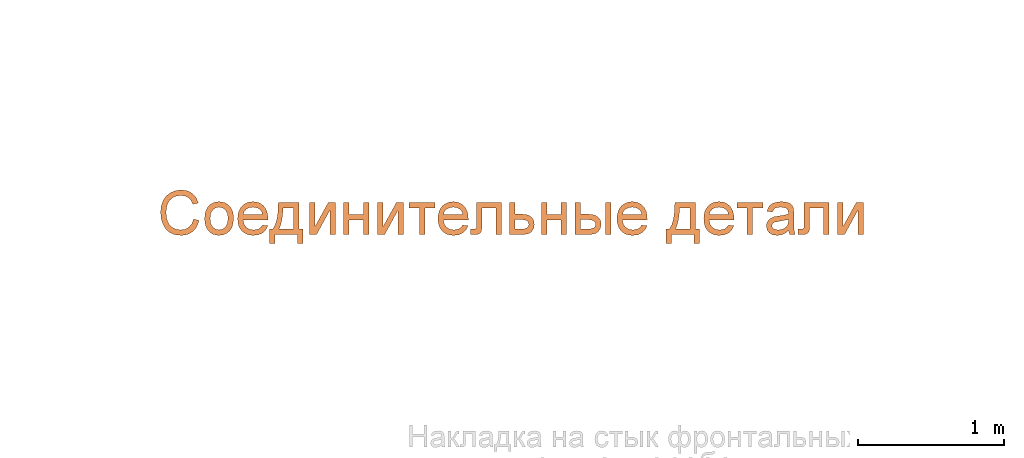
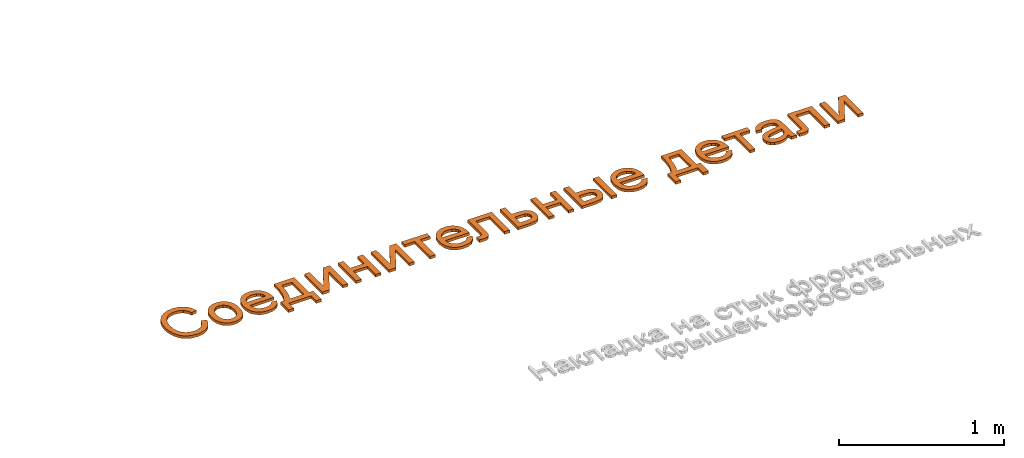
# One storey, part 27 of 87: 1 proxy.
"""IFC2X3 building model written with IfcOpenShell, lengths in millimetres."""

from ifc_helpers import new_model, entity, si_unit, converted_unit, derived_unit, direction, frame, frame_2d, origin, place, context, subcontext, project, spatial, polyline, rectangle, outline, extrude, element, save


model = new_model("IFC2X3")

# Units and contexts
model_context = context("Model", 3, precision=0.01, world=origin(), true_north=direction((6.12303176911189e-17, 1.0)))
body_context = subcontext(model_context, "Body", "Model", "MODEL_VIEW")
ifc_project = project(units=[si_unit("LENGTHUNIT", "METRE", prefix="MILLI"), si_unit("AREAUNIT", "SQUARE_METRE"), si_unit("VOLUMEUNIT", "CUBIC_METRE"), converted_unit("PLANEANGLEUNIT", "DEGREE", entity("IfcRatioMeasure", 0.0174532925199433), si_unit("PLANEANGLEUNIT", "RADIAN"), dimensions=[0, 0, 0, 0, 0, 0, 0]), si_unit("MASSUNIT", "GRAM", prefix="KILO"), derived_unit("MASSDENSITYUNIT", [(si_unit("MASSUNIT", "GRAM", prefix="KILO"), 1), (si_unit("LENGTHUNIT", "METRE"), -3)]), si_unit("TIMEUNIT", "SECOND"), si_unit("FREQUENCYUNIT", "HERTZ"), si_unit("THERMODYNAMICTEMPERATUREUNIT", "DEGREE_CELSIUS"), derived_unit("THERMALTRANSMITTANCEUNIT", [(si_unit("MASSUNIT", "GRAM", prefix="KILO"), 1), (si_unit("THERMODYNAMICTEMPERATUREUNIT", "KELVIN"), -1), (si_unit("TIMEUNIT", "SECOND"), -3)]), derived_unit("VOLUMETRICFLOWRATEUNIT", [(si_unit("LENGTHUNIT", "METRE"), 3), (si_unit("TIMEUNIT", "SECOND"), -1)]), si_unit("ELECTRICCURRENTUNIT", "AMPERE"), si_unit("ELECTRICVOLTAGEUNIT", "VOLT"), si_unit("POWERUNIT", "WATT"), si_unit("FORCEUNIT", "NEWTON", prefix="KILO"), si_unit("ILLUMINANCEUNIT", "LUX"), si_unit("LUMINOUSFLUXUNIT", "LUMEN"), si_unit("LUMINOUSINTENSITYUNIT", "CANDELA"), derived_unit("USERDEFINED", [(si_unit("MASSUNIT", "GRAM", prefix="KILO"), -1), (si_unit("LENGTHUNIT", "METRE"), -2), (si_unit("TIMEUNIT", "SECOND"), 3), (si_unit("LUMINOUSFLUXUNIT", "LUMEN"), 1)]), derived_unit("LINEARVELOCITYUNIT", [(si_unit("LENGTHUNIT", "METRE"), 1), (si_unit("TIMEUNIT", "SECOND"), -1)]), si_unit("PRESSUREUNIT", "PASCAL"), derived_unit("USERDEFINED", [(si_unit("LENGTHUNIT", "METRE"), -2), (si_unit("MASSUNIT", "GRAM", prefix="KILO"), 1), (si_unit("TIMEUNIT", "SECOND"), -2)])], contexts=[model_context])

# Site, building, storey
site_placement = place(None, origin())
site = spatial("IfcSite", under=ifc_project, at=site_placement, Name="Default", CompositionType="ELEMENT")
building_placement = place(site_placement, origin())
building = spatial("IfcBuilding", under=site, at=building_placement, Name="Наименование здания", CompositionType="ELEMENT")
storey_placement = place(building_placement, origin())
storey = spatial("IfcBuildingStorey", under=building, at=storey_placement, Name="Этаж 01", CompositionType="ELEMENT", Elevation=0.0)

# Proxy
proxy_placement = place(storey_placement, origin())
element("IfcBuildingElementProxy", 1, at=proxy_placement, inside=storey, Name="Текст модели:300 мм Arial", ObjectType="Текст модели:300 мм Arial", context=body_context, shape_type="SweptSolid", body=[
    extrude(outline(polyline([(4.8581661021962, -100.676583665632), (0.632914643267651, -139.349375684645), (25.1827939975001, -140.653854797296), (47.8407316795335, -138.599132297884), (68.6067276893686, -133.185208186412), (87.4807820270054, -124.412082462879), (104.198015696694, -112.538547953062), (118.493549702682, -97.8233974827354), (130.367384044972, -80.266631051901), (139.819518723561, -59.8682486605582), (150.63009438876, -17.2433335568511), (149.004776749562, 20.4637796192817), (135.740600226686, 53.9056734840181), (111.634599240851, 83.7349306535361), (79.42298974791, 108.554304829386), (41.8419877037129, 126.96654971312), (-0.842994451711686, 138.320868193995), (-41.0705374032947, 139.210702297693), (-77.4665671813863, 129.86422637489), (-108.657009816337, 110.509614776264), (-133.587943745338, 83.0001436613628), (-151.205447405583, 49.1890891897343), (-160.310718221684, 8.47618552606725), (-159.798338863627, -10.925103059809), (-155.909282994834, -29.6896161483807), (-148.803120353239, -47.4719773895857), (-138.639420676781, -63.926810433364), (-109.139410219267, -92.8538919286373), (-87.4312743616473, -60.7845268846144), (-108.516170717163, -38.8602492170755), (-119.840866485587, -15.5102405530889), (-121.964048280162, 9.71246899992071), (-115.444402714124, 37.2548493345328), (-100.243438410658, 66.0995768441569), (-79.546384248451, 86.6943764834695), (-54.7647926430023, 98.8940483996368), (-27.3102160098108, 102.553392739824), (1.0284506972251, 99.5474992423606), (28.4623125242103, 91.7514576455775), (60.014859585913, 76.7959561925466), (85.1539446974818, 58.1871732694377), (102.690355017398, 36.03019126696), (111.434877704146, 10.4300925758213), (112.226526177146, -16.6000242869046), (105.90431385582, -43.0470608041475), (90.4228069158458, -70.8125336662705), (68.0521970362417, -90.3721374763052), (39.3461086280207, -100.676583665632), (4.8581661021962, -100.676583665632)])), frame((6548.51639485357, 6045.10355626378, 0.0), z_axis=(0.0, 0.0, -1.0), x_axis=(-0.353343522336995, -0.93549364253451, 0.0)), (0.0, 0.0, -1.0), 20.0),
    extrude(outline(polyline([(-0.229377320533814, -95.3874471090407), (26.1479590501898, -95.3874471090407), (49.4793057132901, -91.7658632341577), (69.7646626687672, -84.5226954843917), (87.00402991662, -73.6579438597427), (100.935147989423, -59.804343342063), (111.295757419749, -43.5946289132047), (118.085858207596, -25.028800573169), (121.305450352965, -4.10685832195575), (119.659258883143, 22.6445950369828), (111.137222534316, 47.6856680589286), (96.2709912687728, 69.2676051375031), (75.5922150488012, 85.6416506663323), (47.2756049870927, 96.6589942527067), (9.49587219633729, 102.170825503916), (-15.4440446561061, 102.059101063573), (-37.7671193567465, 98.3167797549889), (-57.4733519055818, 90.9438615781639), (-74.5627423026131, 79.9403465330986), (-88.5474044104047, 66.007273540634), (-98.9394520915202, 49.8456815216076), (-105.738885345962, 31.4555704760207), (-108.945704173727, 10.8369404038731), (-108.636916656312, -8.04907106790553), (-105.175445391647, -25.6466417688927), (-98.5612903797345, -41.9557716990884), (-88.7944516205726, -56.9764608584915), (-72.9824052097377, -72.2927248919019), (-52.9508773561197, -83.7999772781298), (-28.6998680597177, -91.4982180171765), (-0.229377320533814, -95.3874471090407)]), holes=[polyline([(2.13700462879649, -57.7906566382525), (-31.5841834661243, -51.2335049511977), (-54.9205080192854, -36.6132063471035), (-68.1007471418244, -16.0346845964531), (-71.3536789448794, 8.39713653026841), (-64.9677103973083, 31.9545293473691), (-49.1835960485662, 50.6439854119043), (-24.4231993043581, 62.2256502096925), (8.89161642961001, 64.4596692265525), (43.374556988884, 57.8530781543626), (67.0871689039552, 43.2083576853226), (80.4074567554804, 22.6576120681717), (83.7134251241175, -1.66705444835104), (77.3113738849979, -25.4722462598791), (61.5266638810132, -44.1708800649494), (36.4412293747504, -55.6485016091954), (2.13700462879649, -57.7906566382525)])]), frame((6811.52636546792, 6014.46597965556, 0.0), z_axis=(0.0, 0.0, 1.0), x_axis=(0.06476590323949, -0.997900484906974, 0.0)), (0.0, 0.0, 1.0), 20.0),
    extrude(outline(polyline([(-9.2980261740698, -75.8566611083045), (-26.8306332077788, -108.704820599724), (3.56775144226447, -113.95540701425), (32.8230438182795, -108.674298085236), (59.9984289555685, -92.7832033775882), (84.1570918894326, -66.2038324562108), (96.1620849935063, -46.0614577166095), (103.65130823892, -25.838752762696), (106.624761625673, -5.53571759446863), (105.082445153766, 14.847647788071), (99.0119671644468, 34.6660777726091), (88.4009359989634, 53.2743067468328), (73.2493516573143, 70.6723347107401), (53.5572141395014, 86.8601616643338), (31.0596964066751, 100.584097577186), (8.99213631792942, 109.526058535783), (-12.6454661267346, 113.686044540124), (-33.8531109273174, 113.064055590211), (-53.9060969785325, 108.053690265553), (-72.0797231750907, 99.0485471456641), (-88.3739895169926, 86.0486262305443), (-102.788896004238, 69.0539275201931), (-113.658425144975, 50.4204956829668), (-120.210650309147, 31.2442368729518), (-122.445571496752, 11.5251510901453), (-120.363188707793, -8.73676166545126), (-113.816971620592, -28.7151265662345), (-102.660389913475, -47.5835687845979), (-86.8934435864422, -65.342088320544), (-66.5161326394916, -81.9906851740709), (-58.1074951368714, -87.6861196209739), (39.8593178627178, 50.389057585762), (59.0835694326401, 28.753814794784), (67.2251442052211, 4.40423779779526), (64.9709656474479, -20.8014716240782), (53.0079572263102, -45.0051116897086), (39.8008874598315, -60.2180076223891), (25.2142222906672, -70.572817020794), (8.94792873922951, -75.8566611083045), (-9.2980261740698, -75.8566611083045)]), holes=[polyline([(9.13594075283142, 72.1878443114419), (-67.1598127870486, -35.3439755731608), (-80.4432259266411, -19.6717769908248), (-86.2748434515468, -3.28747293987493), (-84.3671677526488, 22.2881318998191), (-71.9803673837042, 47.3751539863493), (-54.4135940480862, 66.046616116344), (-33.6450905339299, 77.0560555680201), (-11.7651484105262, 79.4282168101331), (9.13594075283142, 72.1878443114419)])]), frame((7044.18288641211, 6000.0946459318, 0.0), z_axis=(0.0, 0.0, -1.0), x_axis=(-0.578660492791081, -0.815568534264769, 0.0)), (0.0, 0.0, -1.0), 20.0),
    extrude(outline(polyline([(-174.229575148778, 48.086932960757), (-178.217845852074, -93.1234431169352), (5.35564304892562, -98.3081950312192), (4.55798890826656, -126.550270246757), (103.405252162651, -129.342059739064), (104.468791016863, -91.6859594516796), (43.277628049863, -89.957708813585), (47.6647258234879, 65.3737048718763), (108.855888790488, 63.6454542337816), (109.9194276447, 101.301554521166), (11.0721643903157, 104.093344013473), (10.4074526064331, 80.5582813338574), (-20.9931116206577, 64.3226071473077), (-62.2328043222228, 53.4988243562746), (-113.311625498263, 48.086932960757), (-174.229575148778, 48.086932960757)]), holes=[polyline([(-137.504071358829, 14.0743063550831), (-91.3120078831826, 15.8611233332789), (-51.4621462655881, 20.4768726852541), (-17.9544865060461, 27.921554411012), (9.21097139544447, 38.1951685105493), (6.41918190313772, -60.6520947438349), (-139.498206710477, -56.530881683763), (-137.504071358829, 14.0743063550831)])]), frame((7263.32438972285, 5943.65819920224, 0.0), z_axis=(0.0, 0.0, -1.0), x_axis=(-0.0282322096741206, -0.99960139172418, 0.0)), (0.0, 0.0, -1.0), 20.0),
    extrude(outline(polyline([(-110.761911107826, -89.5277623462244), (110.555897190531, -89.5277623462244), (110.555897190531, -40.2315749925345), (-57.1982926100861, 51.7389238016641), (110.555897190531, 51.7389238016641), (110.555897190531, 89.4100401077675), (-110.761911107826, 89.4100401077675), (-110.761911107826, 40.70246394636), (58.0223482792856, -51.856646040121), (-110.761911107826, -51.856646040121), (-110.761911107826, -89.5277623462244)])), frame((7521.60330207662, 6008.41401426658, 0.0), z_axis=(0.0, 0.0, 1.0), x_axis=(0.0, -1.0, 0.0)), (0.0, 0.0, 1.0), 20.0),
    extrude(outline(polyline([(-108.304459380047, -87.1144564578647), (113.013348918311, -87.1144564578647), (113.013348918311, -49.4433401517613), (14.1266686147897, -49.4433401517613), (14.1266686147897, 49.4433401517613), (113.013348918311, 49.4433401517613), (113.013348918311, 87.1144564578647), (-108.304459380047, 87.1144564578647), (-108.304459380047, 49.4433401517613), (-23.5444476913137, 49.4433401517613), (-23.5444476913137, -49.4433401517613), (-108.304459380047, -49.4433401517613), (-108.304459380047, -87.1144564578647)])), frame((7754.6344731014, 6010.87146599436, 0.0), z_axis=(0.0, 0.0, 1.0), x_axis=(0.0, -1.0, 0.0)), (0.0, 0.0, 1.0), 20.0),
    extrude(outline(polyline([(-110.761911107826, -89.5277623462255), (110.555897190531, -89.5277623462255), (110.555897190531, -40.2315749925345), (-57.1982926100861, 51.738923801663), (110.555897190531, 51.738923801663), (110.555897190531, 89.4100401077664), (-110.761911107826, 89.4100401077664), (-110.761911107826, 40.70246394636), (58.0223482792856, -51.8566460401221), (-110.761911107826, -51.8566460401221), (-110.761911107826, -89.5277623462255)])), frame((7987.78336636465, 6008.41401426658, 0.0), z_axis=(0.0, 0.0, 1.0), x_axis=(0.0, -1.0, 0.0)), (0.0, 0.0, 1.0), 20.0),
    extrude(outline(polyline([(-74.1650102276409, -89.4689012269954), (-36.4938939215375, -89.4689012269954), (-36.4938939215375, -18.8355581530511), (147.152798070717, -18.8355581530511), (147.152798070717, 18.8355581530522), (-36.4938939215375, 18.8355581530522), (-36.4938939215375, 89.4689012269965), (-74.1650102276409, 89.4689012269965), (-74.1650102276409, -89.4689012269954)])), frame((8204.33342400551, 6045.01091514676, 0.0), z_axis=(0.0, 0.0, 1.0), x_axis=(0.0, -1.0, 0.0)), (0.0, 0.0, 1.0), 20.0),
    extrude(outline(polyline([(-9.29802617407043, -75.8566611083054), (-26.8306332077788, -108.704820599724), (3.56775144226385, -113.955407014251), (32.8230438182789, -108.674298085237), (59.9984289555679, -92.7832033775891), (84.157091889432, -66.2038324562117), (96.1620849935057, -46.0614577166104), (103.65130823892, -25.838752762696), (106.624761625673, -5.53571759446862), (105.082445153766, 14.847647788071), (99.0119671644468, 34.6660777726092), (88.4009359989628, 53.2743067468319), (73.2493516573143, 70.6723347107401), (53.5572141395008, 86.8601616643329), (31.0596964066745, 100.584097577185), (8.9921363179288, 109.526058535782), (-12.6454661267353, 113.686044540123), (-33.853110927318, 113.06405559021), (-53.9060969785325, 108.053690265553), (-72.0797231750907, 99.0485471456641), (-88.3739895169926, 86.0486262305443), (-102.788896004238, 69.0539275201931), (-113.658425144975, 50.4204956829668), (-120.210650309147, 31.2442368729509), (-122.445571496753, 11.5251510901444), (-120.363188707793, -8.73676166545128), (-113.816971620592, -28.7151265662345), (-102.660389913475, -47.5835687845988), (-86.8934435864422, -65.3420883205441), (-66.5161326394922, -81.9906851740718), (-58.107495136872, -87.6861196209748), (39.8593178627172, 50.3890575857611), (59.0835694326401, 28.753814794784), (67.2251442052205, 4.40423779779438), (64.9709656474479, -20.8014716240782), (53.0079572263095, -45.0051116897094), (39.8008874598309, -60.21800762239), (25.2142222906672, -70.5728170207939), (8.94792873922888, -75.8566611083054), (-9.29802617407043, -75.8566611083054)]), holes=[polyline([(9.13594075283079, 72.187844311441), (-67.1598127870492, -35.3439755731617), (-80.4432259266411, -19.6717769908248), (-86.2748434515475, -3.28747293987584), (-84.3671677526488, 22.288131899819), (-71.9803673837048, 47.3751539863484), (-54.4135940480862, 66.0466161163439), (-33.6450905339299, 77.0560555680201), (-11.7651484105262, 79.4282168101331), (9.13594075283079, 72.187844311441)])]), frame((8414.46974204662, 6000.0946459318, 0.0), z_axis=(0.0, 0.0, -1.0), x_axis=(-0.578660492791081, -0.815568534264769, 0.0)), (0.0, 0.0, -1.0), 20.0),
    extrude(outline(polyline([(-155.101092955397, 35.5430211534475), (-155.101092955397, -133.977002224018), (65.9959861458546, -133.977002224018), (65.9959861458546, -96.3058859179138), (-117.429976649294, -96.3058859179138), (-117.429976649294, -2.12809515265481), (-11.8478440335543, -2.12809515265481), (36.8597321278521, 0.410290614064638), (47.8869949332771, 5.16516540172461), (57.4243356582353, 14.3530182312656), (64.0186204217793, 28.2957458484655), (66.2167153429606, 47.3152449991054), (64.3037289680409, 77.9230269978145), (28.5455990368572, 77.9230269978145), (28.5455990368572, 61.0740316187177), (26.2279424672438, 44.0410952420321), (18.8703025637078, 37.2352783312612), (-13.9815596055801, 35.5430211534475), (-155.101092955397, 35.5430211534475)])), frame((8611.87871868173, 5964.07483241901, 0.0), z_axis=(0.0, 0.0, -1.0), x_axis=(0.0, -1.0, 0.0)), (0.0, 0.0, -1.0), 20.0),
    extrude(outline(polyline([(-128.949105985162, -106.932805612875), (92.3687023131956, -106.932805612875), (92.3687023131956, -19.4504671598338), (87.2091573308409, 17.6596291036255), (80.7597261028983, 31.8207866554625), (71.7305223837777, 43.0526838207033), (48.9862180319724, 57.7035842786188), (22.0296648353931, 62.5872177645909), (-7.57563872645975, 56.8482586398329), (-19.6950512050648, 49.6745597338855), (-30.0256374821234, 39.6313812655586), (-38.2822890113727, 26.9302553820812), (-44.1798972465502, 11.7827142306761), (-48.8979838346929, -25.85161387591), (-48.8979838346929, -69.2616893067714), (-128.949105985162, -69.2616893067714), (-128.949105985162, -106.932805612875)]), holes=[polyline([(54.6975860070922, -69.2616893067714), (-11.2268675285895, -69.2616893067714), (-11.2268675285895, -29.6040102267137), (-8.688481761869, -1.2678995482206), (-1.07332446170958, 14.8729229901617), (9.79758849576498, 22.4053068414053), (22.1032412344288, 24.9161014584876), (36.6621711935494, 21.5223900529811), (46.7881231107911, 11.341255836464), (52.7202202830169, -6.80452357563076), (54.6975860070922, -34.0921705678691), (54.6975860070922, -69.2616893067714)])]), frame((8909.29520097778, 5990.22681938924, 0.0), z_axis=(0.0, 0.0, 1.0), x_axis=(0.0, -1.0, 0.0)), (0.0, 0.0, 1.0), 20.0),
    extrude(outline(polyline([(-108.304459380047, -87.1144564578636), (113.013348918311, -87.1144564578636), (113.013348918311, -49.4433401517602), (14.1266686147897, -49.4433401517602), (14.1266686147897, 49.4433401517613), (113.013348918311, 49.4433401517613), (113.013348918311, 87.1144564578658), (-108.304459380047, 87.1144564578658), (-108.304459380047, 49.4433401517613), (-23.5444476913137, 49.4433401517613), (-23.5444476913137, -49.4433401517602), (-108.304459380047, -49.4433401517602), (-108.304459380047, -87.1144564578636)])), frame((9106.08577058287, 6010.87146599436, 0.0), z_axis=(0.0, 0.0, 1.0), x_axis=(0.0, -1.0, 0.0)), (0.0, 0.0, 1.0), 20.0),
    extrude(outline(polyline([(-129.321611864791, -116.217168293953), (91.9961964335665, -116.217168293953), (91.9961964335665, -23.878787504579), (86.8366514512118, 15.2730538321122), (80.3872202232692, 30.2205591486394), (71.3580165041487, 42.0824542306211), (48.6137121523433, 57.5610891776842), (21.657158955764, 62.7206341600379), (5.96009407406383, 61.1824275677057), (-7.9481446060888, 56.5678077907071), (-20.0675570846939, 48.8767748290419), (-30.3981433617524, 38.1093286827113), (-38.6547948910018, 24.4999941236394), (-44.5524031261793, 8.28329592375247), (-49.270489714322, -31.9721913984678), (-49.270489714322, -78.5460519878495), (-129.321611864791, -78.5460519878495), (-129.321611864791, -116.217168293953)]), holes=[polyline([(54.3250801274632, -78.5460519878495), (-11.5993734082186, -78.5460519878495), (-11.5993734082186, -34.915247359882), (-9.06098764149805, -3.78323351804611), (-1.44583034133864, 13.9762697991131), (9.42508261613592, 22.28120584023), (21.7307353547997, 25.0495178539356), (36.2896653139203, 21.3155156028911), (46.415617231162, 10.1135088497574), (52.3477144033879, -9.84408938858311), (54.3250801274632, -39.8448660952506), (54.3250801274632, -78.5460519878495)])]), frame((9365.92406979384, 5989.85431350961, 0.0), z_axis=(0.0, 0.0, 1.0), x_axis=(0.0, -1.0, 0.0)), (0.0, 0.0, 1.0), 20.0),
    extrude(outline(polyline([(-9.29802617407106, -75.8566611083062), (-26.8306332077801, -108.704820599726), (3.56775144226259, -113.955407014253), (32.8230438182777, -108.674298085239), (59.9984289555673, -92.78320337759), (84.1570918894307, -66.2038324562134), (96.1620849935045, -46.0614577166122), (103.651308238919, -25.8387527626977), (106.624761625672, -5.5357175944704), (105.082445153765, 14.8476477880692), (99.0119671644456, 34.6660777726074), (88.4009359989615, 53.2743067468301), (73.2493516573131, 70.6723347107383), (53.5572141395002, 86.860161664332), (31.0596964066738, 100.584097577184), (8.99213631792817, 109.526058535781), (-12.6454661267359, 113.686044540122), (-33.8531109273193, 113.064055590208), (-53.9060969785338, 108.053690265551), (-72.079723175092, 99.0485471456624), (-88.3739895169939, 86.0486262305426), (-102.788896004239, 69.0539275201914), (-113.658425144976, 50.420495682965), (-120.210650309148, 31.24423687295), (-122.445571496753, 11.5251510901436), (-120.363188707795, -8.73676166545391), (-113.816971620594, -28.7151265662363), (-102.660389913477, -47.5835687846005), (-86.8934435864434, -65.3420883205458), (-66.5161326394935, -81.9906851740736), (-58.1074951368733, -87.6861196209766), (39.8593178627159, 50.3890575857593), (59.0835694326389, 28.7538147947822), (67.2251442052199, 4.40423779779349), (64.970965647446, -20.8014716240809), (53.0079572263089, -45.0051116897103), (39.8008874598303, -60.2180076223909), (25.214222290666, -70.5728170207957), (8.94792873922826, -75.8566611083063), (-9.29802617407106, -75.8566611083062)]), holes=[polyline([(9.13594075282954, 72.1878443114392), (-67.1598127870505, -35.3439755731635), (-80.443225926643, -19.6717769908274), (-86.2748434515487, -3.28747293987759), (-84.36716775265, 22.2881318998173), (-71.9803673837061, 47.3751539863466), (-54.4135940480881, 66.0466161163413), (-33.6450905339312, 77.0560555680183), (-11.7651484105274, 79.4282168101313), (9.13594075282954, 72.1878443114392)])]), frame((9638.78102199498, 6000.0946459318, 0.0), z_axis=(0.0, 0.0, -1.0), x_axis=(-0.578660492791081, -0.815568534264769, 0.0)), (0.0, 0.0, -1.0), 20.0),
    extrude(outline(polyline([(-174.229575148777, 48.086932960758), (-178.217845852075, -93.1234431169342), (5.35564304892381, -98.3081950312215), (4.55798890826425, -126.55027024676), (103.405252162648, -129.342059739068), (104.468791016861, -91.6859594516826), (43.2776280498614, -89.9577088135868), (47.6647258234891, 65.3737048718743), (108.855888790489, 63.6454542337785), (109.919427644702, 101.301554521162), (11.0721643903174, 104.09334401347), (10.4074526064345, 80.5582813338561), (-20.9931116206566, 64.322607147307), (-62.2328043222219, 53.4988243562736), (-113.311625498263, 48.0869329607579), (-174.229575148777, 48.086932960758)]), holes=[polyline([(-137.504071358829, 14.0743063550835), (-91.3120078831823, 15.8611233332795), (-51.4621462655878, 20.4768726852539), (-17.9544865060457, 27.921554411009), (9.21097139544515, 38.1951685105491), (6.41918190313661, -60.6520947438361), (-139.498206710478, -56.5308816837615), (-137.504071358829, 14.0743063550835)])]), frame((9975.6447637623, 5943.65819920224, 0.0), z_axis=(0.0, 0.0, -1.0), x_axis=(-0.0282322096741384, -0.999601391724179, 0.0)), (0.0, 0.0, -1.0), 20.0),
    extrude(outline(polyline([(-9.29802617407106, -75.8566611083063), (-26.8306332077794, -108.704820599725), (3.56775144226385, -113.955407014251), (32.8230438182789, -108.674298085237), (59.9984289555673, -92.78320337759), (84.1570918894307, -66.2038324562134), (96.1620849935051, -46.0614577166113), (103.651308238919, -25.8387527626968), (106.624761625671, -5.53571759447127), (105.082445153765, 14.8476477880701), (99.0119671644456, 34.6660777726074), (88.4009359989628, 53.2743067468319), (73.2493516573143, 70.6723347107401), (53.5572141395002, 86.860161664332), (31.0596964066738, 100.584097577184), (8.99213631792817, 109.526058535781), (-12.6454661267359, 113.686044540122), (-33.8531109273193, 113.064055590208), (-53.9060969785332, 108.053690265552), (-72.0797231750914, 99.0485471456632), (-88.3739895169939, 86.0486262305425), (-102.788896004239, 69.0539275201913), (-113.658425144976, 50.420495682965), (-120.210650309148, 31.24423687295), (-122.445571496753, 11.5251510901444), (-120.363188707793, -8.73676166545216), (-113.816971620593, -28.7151265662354), (-102.660389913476, -47.5835687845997), (-86.893443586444, -65.3420883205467), (-66.5161326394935, -81.9906851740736), (-58.1074951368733, -87.6861196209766), (39.8593178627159, 50.3890575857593), (59.0835694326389, 28.7538147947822), (67.2251442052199, 4.4042377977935), (64.9709656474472, -20.8014716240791), (53.0079572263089, -45.0051116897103), (39.8008874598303, -60.2180076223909), (25.2142222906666, -70.5728170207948), (8.94792873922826, -75.8566611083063), (-9.29802617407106, -75.8566611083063)]), holes=[polyline([(9.13594075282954, 72.1878443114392), (-67.1598127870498, -35.3439755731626), (-80.443225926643, -19.6717769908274), (-86.2748434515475, -3.28747293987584), (-84.36716775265, 22.2881318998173), (-71.9803673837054, 47.3751539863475), (-54.4135940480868, 66.0466161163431), (-33.6450905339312, 77.0560555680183), (-11.7651484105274, 79.4282168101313), (9.13594075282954, 72.1878443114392)])]), frame((10232.1011038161, 6000.0946459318, 0.0), z_axis=(0.0, 0.0, -1.0), x_axis=(-0.578660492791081, -0.815568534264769, 0.0)), (0.0, 0.0, -1.0), 20.0),
    extrude(outline(polyline([(-74.1650102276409, -89.4689012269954), (-36.4938939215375, -89.4689012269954), (-36.4938939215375, -18.8355581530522), (147.152798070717, -18.8355581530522), (147.152798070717, 18.8355581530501), (-36.4938939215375, 18.8355581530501), (-36.4938939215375, 89.4689012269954), (-74.1650102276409, 89.4689012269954), (-74.1650102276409, -89.4689012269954)])), frame((10445.7648442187, 6045.01091514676, 0.0), z_axis=(0.0, 0.0, 1.0), x_axis=(0.0, -1.0, 0.0)), (0.0, 0.0, 1.0), 20.0),
    extrude(outline(polyline([(109.632642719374, 21.640001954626), (139.414275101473, 21.640001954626), (151.326928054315, 57.3779608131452), (118.904502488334, 60.2746899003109), (56.2118396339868, 79.1557794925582), (11.7487931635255, 93.9767949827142), (-20.1035933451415, 102.655348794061), (-34.933333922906, 102.80949200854), (-48.0122402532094, 99.7818866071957), (-60.1401120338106, 92.6854820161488), (-72.1167489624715, 80.6332276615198), (-83.2645025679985, 63.0696262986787), (-92.9057243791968, 39.439180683), (-99.5047989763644, 13.6507300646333), (-101.433043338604, -10.107683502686), (-98.7108160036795, -30.9664596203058), (-91.3584755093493, -48.0559978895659), (-79.0880939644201, -62.4320339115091), (-61.6117434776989, -75.1503032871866), (-45.231845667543, -40.9014260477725), (-57.7232627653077, -28.8462633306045), (-63.880266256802, -15.5288712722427), (-64.0809432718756, 1.05752027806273), (-58.7033809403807, 22.9196814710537), (-48.4543113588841, 45.0581371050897), (-35.2038116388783, 58.9833769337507), (-22.308132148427, 62.8863994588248), (-5.53851375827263, 60.0303874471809), (2.34896544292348, 57.1685587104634), (0.499246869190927, 29.5158477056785), (-6.02711866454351, -8.90943813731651), (-10.9597015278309, -41.6226999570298), (-7.57436753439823, -70.5550904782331), (-1.92341912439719, -83.616546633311), (6.95581170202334, -95.3692396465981), (18.6997796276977, -104.984286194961), (32.9449393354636, -111.632802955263), (58.4832707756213, -115.114112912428), (82.3289352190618, -107.968266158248), (102.393728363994, -90.1778125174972), (116.589445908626, -61.7253018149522), (121.426052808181, -41.3405887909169), (122.301469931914, -21.0896604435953), (118.581674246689, -0.315226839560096), (109.632642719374, 21.640001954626)]), holes=[polyline([(38.1567250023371, 45.4653078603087), (48.2080259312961, 41.8822052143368), (63.7910324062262, 35.1173539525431), (73.9644845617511, 27.0146559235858), (82.0235571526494, 13.7030805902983), (86.8892476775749, -3.19741411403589), (87.6483302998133, -22.2966308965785), (83.3875791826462, -42.2043724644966), (75.4157574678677, -59.6632727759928), (65.2277634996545, -70.8575601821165), (53.8589743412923, -75.9384695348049), (42.3447670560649, -75.0572356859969), (30.2227120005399, -65.5876072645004), (25.4413639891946, -48.5213358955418), (29.8969753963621, -15.8429744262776), (38.1567250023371, 45.4653078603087)])]), frame((10654.2642642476, 6023.27494189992, 0.0), z_axis=(0.0, 0.0, 1.0), x_axis=(0.316227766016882, -0.948683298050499, 0.0)), (0.0, 0.0, 1.0), 20.0),
    extrude(outline(polyline([(-155.101092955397, 35.5430211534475), (-155.101092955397, -133.977002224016), (65.9959861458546, -133.977002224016), (65.9959861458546, -96.3058859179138), (-117.429976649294, -96.3058859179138), (-117.429976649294, -2.12809515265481), (-11.8478440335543, -2.12809515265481), (36.8597321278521, 0.410290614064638), (47.8869949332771, 5.16516540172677), (57.4243356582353, 14.3530182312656), (64.0186204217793, 28.2957458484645), (66.2167153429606, 47.3152449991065), (64.3037289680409, 77.9230269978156), (28.5455990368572, 77.9230269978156), (28.5455990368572, 61.0740316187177), (26.2279424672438, 44.0410952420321), (18.8703025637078, 37.2352783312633), (-13.9815596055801, 35.5430211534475), (-155.101092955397, 35.5430211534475)])), frame((10853.3101388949, 5964.07483241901, 0.0), z_axis=(0.0, 0.0, -1.0), x_axis=(0.0, -1.0, 0.0)), (0.0, 0.0, -1.0), 20.0),
    extrude(outline(polyline([(-110.761911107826, -89.5277623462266), (110.555897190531, -89.5277623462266), (110.555897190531, -40.2315749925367), (-57.1982926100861, 51.7389238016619), (110.555897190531, 51.7389238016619), (110.555897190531, 89.4100401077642), (-110.761911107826, 89.4100401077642), (-110.761911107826, 40.7024639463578), (58.0223482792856, -51.8566460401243), (-110.761911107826, -51.8566460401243), (-110.761911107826, -89.5277623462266)])), frame((11133.3215779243, 6008.41401426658, 0.0), z_axis=(0.0, 0.0, 1.0), x_axis=(0.0, -1.0, 0.0)), (0.0, 0.0, 1.0), 20.0),
    extrude(rectangle(XDim=221.317808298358, YDim=37.6711163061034, at=frame_2d((5.40012479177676e-13, 5.41788836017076e-13), x_axis=(1.0, 0.0))), frame((9475.73359933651, 6008.51702122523, 0.0), z_axis=(0.0, 0.0, 1.0), x_axis=(0.0, -1.0, 0.0)), (0.0, 0.0, 1.0), 20.0),
])

save(model, "model.ifc")
